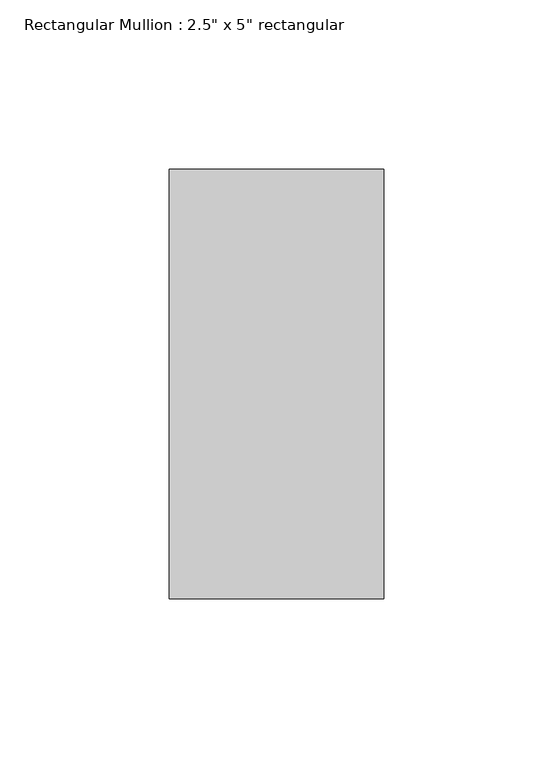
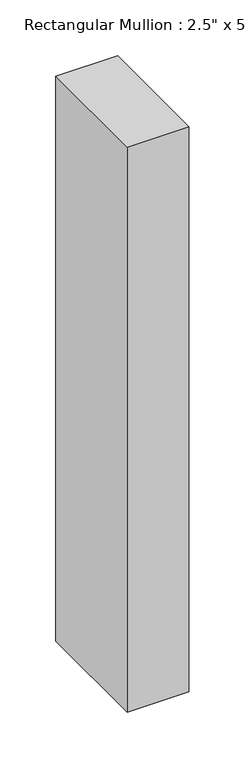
"""IFC4 building model written with IfcOpenShell, lengths in millimetres: member geometry."""

from ifc_helpers import new_model, si_unit, frame, origin, place, context, project, spatial, polyline, outline, extrude, source, transform, mapped, element, save


def member_f8dc38bf(model_context):
    return source(origin(), model_context, "Body", "SweptSolid", [
        extrude(outline(polyline([(31.75, 63.5), (31.75, -63.5), (-31.75, -63.5), (-31.75, 63.5), (31.75, 63.5)])), frame((0.0, 0.0, -615.95), z_axis=(0.0, 0.0, 1.0), x_axis=(1.0, 0.0, 0.0)), (0.0, 0.0, 1.0), 615.95),
    ])


if __name__ == "__main__":
    model = new_model("IFC4")
    model_context = context("Model", 3, world=origin())
    ifc_project = project(units=[si_unit("LENGTHUNIT", "METRE", prefix="MILLI")], contexts=[model_context])
    site = spatial("IfcSite", under=ifc_project)
    building = spatial("IfcBuilding", under=site)
    placement = place(None, origin())
    member_shape = member_f8dc38bf(model_context)
    element("IfcMember", 1, ObjectType="Rectangular Mullion : 2.5\" x 5\" rectangular", at=placement, inside=building, context=model_context, shape_type="MappedRepresentation", body=[
        mapped(member_shape, transform((0.0, 0.0, 0.0), x_axis=(1.0, 0.0, 0.0), y_axis=(0.0, 1.0, 0.0), z_axis=(0.0, 0.0, 1.0))),
    ])
    save(model, "model.ifc")
